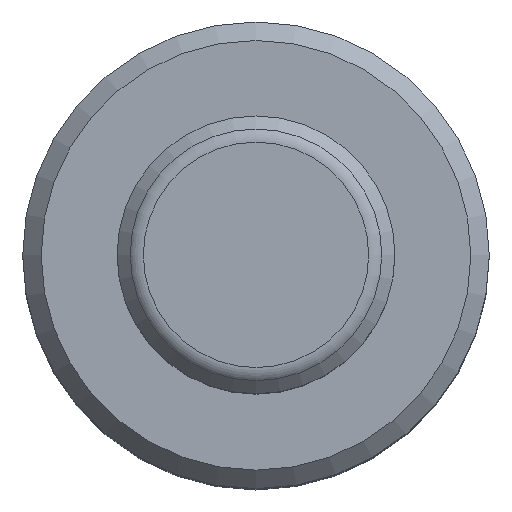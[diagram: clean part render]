
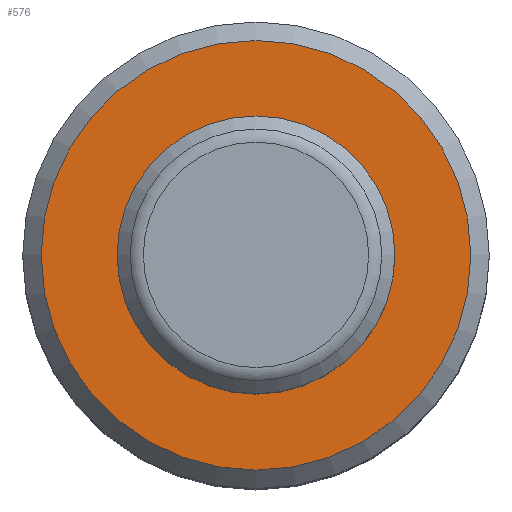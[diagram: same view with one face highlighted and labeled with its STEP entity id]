
A CAD part, top view. The second image highlights one B-rep face of the part: STEP entity #576.
In plain terms, the highlighted planar face has unit normal (0, 0, 1).
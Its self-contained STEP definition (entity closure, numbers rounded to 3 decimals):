
#556 = VERTEX_POINT('',#557);
#557 = CARTESIAN_POINT('',(11.6,0.,42.));
#565 = EDGE_CURVE('',#556,#556,#566,.T.);
#566 = CIRCLE('',#567,11.6);
#567 = AXIS2_PLACEMENT_3D('',#568,#569,#570);
#568 = CARTESIAN_POINT('',(0.,0.,42.));
#569 = DIRECTION('',(0.,0.,1.));
#570 = DIRECTION('',(1.,0.,0.));
#576 = ADVANCED_FACE('',(#577),#580,.T.);
#577 = FACE_BOUND('',#578,.T.);
#578 = EDGE_LOOP('',(#579));
#579 = ORIENTED_EDGE('',*,*,#565,.T.);
#580 = PLANE('',#581);
#581 = AXIS2_PLACEMENT_3D('',#582,#583,#584);
#582 = CARTESIAN_POINT('',(0.,0.,42.));
#583 = DIRECTION('',(0.,0.,1.));
#584 = DIRECTION('',(1.,0.,0.));
